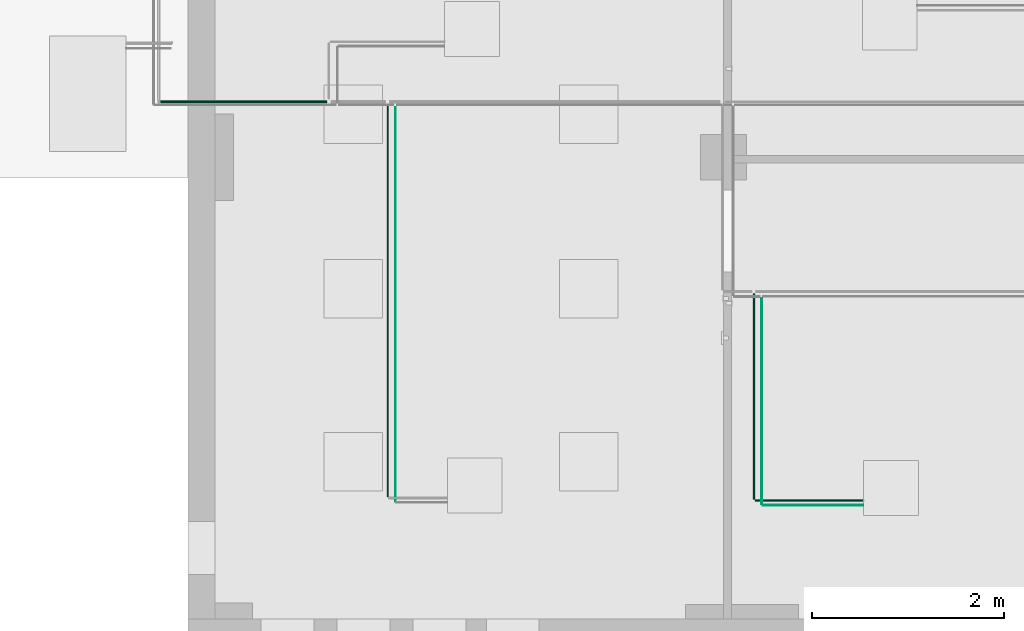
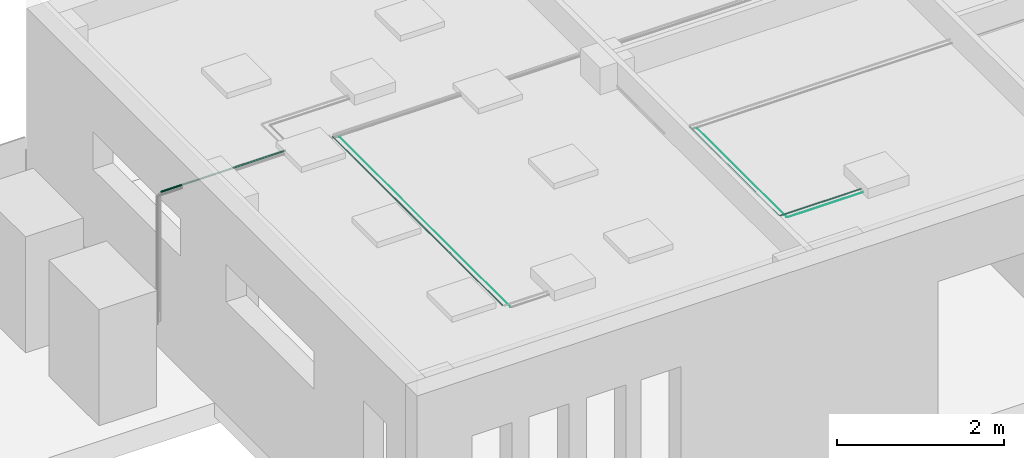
# One storey, part 6 of 22: 7 flow segments.
"""IFC2X3 building model written with IfcOpenShell, lengths in millimetres."""

from ifc_helpers import new_model, entity, si_unit, converted_unit, derived_unit, direction, frame, origin, origin_2d_with_axis, place, context, subcontext, project, spatial, circle, extrude, source, transform, mapped, material, type_object, type_shapes, element, save


model = new_model("IFC2X3")

# Units and contexts
model_context = context("Model", 3, precision=0.01, world=origin(), true_north=direction((6.123031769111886e-17, 1.0)))
body_context = subcontext(model_context, "Body", "Model", "MODEL_VIEW")
ifc_project = project(units=[si_unit("LENGTHUNIT", "METRE", prefix="MILLI"), si_unit("AREAUNIT", "SQUARE_METRE"), si_unit("VOLUMEUNIT", "CUBIC_METRE"), converted_unit("PLANEANGLEUNIT", "DEGREE", entity("IfcRatioMeasure", 0.017453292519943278), si_unit("PLANEANGLEUNIT", "RADIAN"), dimensions=[0, 0, 0, 0, 0, 0, 0]), si_unit("MASSUNIT", "GRAM", prefix="KILO"), derived_unit("MASSDENSITYUNIT", [(si_unit("MASSUNIT", "GRAM", prefix="KILO"), 1), (si_unit("LENGTHUNIT", "METRE"), -3)]), derived_unit("MOMENTOFINERTIAUNIT", [(si_unit("LENGTHUNIT", "METRE"), 4)]), si_unit("TIMEUNIT", "SECOND"), si_unit("FREQUENCYUNIT", "HERTZ"), si_unit("THERMODYNAMICTEMPERATUREUNIT", "DEGREE_CELSIUS"), derived_unit("THERMALTRANSMITTANCEUNIT", [(si_unit("MASSUNIT", "GRAM", prefix="KILO"), 1), (si_unit("THERMODYNAMICTEMPERATUREUNIT", "KELVIN"), -1), (si_unit("TIMEUNIT", "SECOND"), -3)]), derived_unit("VOLUMETRICFLOWRATEUNIT", [(si_unit("LENGTHUNIT", "METRE"), 3), (si_unit("TIMEUNIT", "SECOND"), -1)]), derived_unit("MASSFLOWRATEUNIT", [(si_unit("MASSUNIT", "GRAM", prefix="KILO"), 1), (si_unit("TIMEUNIT", "SECOND"), -1)]), derived_unit("ROTATIONALFREQUENCYUNIT", [(si_unit("TIMEUNIT", "SECOND"), -1)]), si_unit("ELECTRICCURRENTUNIT", "AMPERE"), si_unit("ELECTRICVOLTAGEUNIT", "VOLT"), si_unit("POWERUNIT", "WATT"), si_unit("FORCEUNIT", "NEWTON", prefix="KILO"), si_unit("ILLUMINANCEUNIT", "LUX"), si_unit("LUMINOUSFLUXUNIT", "LUMEN"), si_unit("LUMINOUSINTENSITYUNIT", "CANDELA"), derived_unit("USERDEFINED", [(si_unit("MASSUNIT", "GRAM", prefix="KILO"), -1), (si_unit("LENGTHUNIT", "METRE"), -2), (si_unit("TIMEUNIT", "SECOND"), 3), (si_unit("LUMINOUSFLUXUNIT", "LUMEN"), 1)]), derived_unit("SOUNDPOWERUNIT", [(si_unit("MASSUNIT", "GRAM", prefix="KILO"), 1), (si_unit("LENGTHUNIT", "METRE"), 2), (si_unit("TIMEUNIT", "SECOND"), -3)]), derived_unit("SOUNDPRESSUREUNIT", [(si_unit("MASSUNIT", "GRAM", prefix="KILO"), 1), (si_unit("LENGTHUNIT", "METRE"), -1), (si_unit("TIMEUNIT", "SECOND"), -2)]), derived_unit("LINEARVELOCITYUNIT", [(si_unit("LENGTHUNIT", "METRE"), 1), (si_unit("TIMEUNIT", "SECOND"), -1)]), si_unit("PRESSUREUNIT", "PASCAL"), derived_unit("USERDEFINED", [(si_unit("LENGTHUNIT", "METRE"), -2), (si_unit("MASSUNIT", "GRAM", prefix="KILO"), 1), (si_unit("TIMEUNIT", "SECOND"), -2)]), derived_unit("LINEARFORCEUNIT", [(si_unit("MASSUNIT", "GRAM", prefix="KILO"), 1), (si_unit("LENGTHUNIT", "METRE"), 1), (si_unit("TIMEUNIT", "SECOND"), -2), (si_unit("LENGTHUNIT", "METRE"), -1)]), derived_unit("PLANARFORCEUNIT", [(si_unit("MASSUNIT", "GRAM", prefix="KILO"), 1), (si_unit("LENGTHUNIT", "METRE"), 1), (si_unit("TIMEUNIT", "SECOND"), -2), (si_unit("LENGTHUNIT", "METRE"), -2)])], contexts=[model_context])

# Site, building, storey
site_placement = place(None, origin())
site = spatial("IfcSite", under=ifc_project, at=site_placement, Name="Default", CompositionType="ELEMENT")
building_placement = place(site_placement, origin())
building = spatial("IfcBuilding", under=site, at=building_placement, CompositionType="ELEMENT")
storey_placement = place(building_placement, frame((0.0, 0.0, 3300.0)))
storey = spatial("IfcBuildingStorey", under=building, at=storey_placement, Name="Level 2", CompositionType="ELEMENT", Elevation=3299.99999999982)

# Flow segments
ifc_material = material(Name="<Unnamed>")
pipe_segment_type_1 = type_object("IfcPipeSegmentType", Name="Pipe Types:Standard:Standard : Pipe Types:Standard", PredefinedType="NOTDEFINED", material=ifc_material)
shared_shape_1 = source(origin(), body_context, "Body", "SweptSolid", [
    extrude(circle(Radius=6.35, at=origin_2d_with_axis()), frame((-3525.6666947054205, -2566.9353261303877, 6010.0), z_axis=(1.0, 0.0, 0.0), x_axis=(0.0, 1.0, 0.0)), (0.0, 0.0, 1.0), 1121.74375),
])
type_shapes(pipe_segment_type_1, [shared_shape_1])
flow_segment_1_placement = place(storey_placement, frame((0.0, 0.0, -3300.0)))
element("IfcFlowSegment", 1, at=flow_segment_1_placement, inside=storey, type_object=pipe_segment_type_1, material=ifc_material, Name="Pipe Types:Standard:Standard : Pipe Types:Standard:Standard:Standard : Pipe Types:Standard : Pipe Types:Standard:Standard : Pipe Types:Standard", ObjectType="Pipe Types:Standard:Standard : Pipe Types:Standard:Standard:Standard : Pipe Types:Standard : Pipe Types:Standard:Standard : Pipe Types:Standard", context=body_context, shape_type="MappedRepresentation", body=[
    mapped(shared_shape_1, transform((0.0, 0.0, 0.0), scale=1.0)),
])
pipe_segment_type_2 = type_object("IfcPipeSegmentType", Name="Pipe Types:Standard:Standard : Pipe Types:Standard", PredefinedType="NOTDEFINED", material=ifc_material)
shared_shape_2 = source(origin(), body_context, "Body", "SweptSolid", [
    extrude(circle(Radius=6.35, at=origin_2d_with_axis()), frame((-3539.954194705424, -2552.6478261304, 6010.0), z_axis=(0.0, 1.0, 0.0), x_axis=(-1.0, 0.0, 0.0)), (0.0, 0.0, 1.0), 2138.61920625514),
])
type_shapes(pipe_segment_type_2, [shared_shape_2])
flow_segment_2_placement = place(storey_placement, frame((0.0, 0.0, -3300.0)))
element("IfcFlowSegment", 2, at=flow_segment_2_placement, inside=storey, type_object=pipe_segment_type_2, material=ifc_material, Name="Pipe Types:Standard:Standard : Pipe Types:Standard:Standard:Standard : Pipe Types:Standard : Pipe Types:Standard:Standard : Pipe Types:Standard", ObjectType="Pipe Types:Standard:Standard : Pipe Types:Standard:Standard:Standard : Pipe Types:Standard : Pipe Types:Standard:Standard : Pipe Types:Standard", context=body_context, shape_type="MappedRepresentation", body=[
    mapped(shared_shape_2, transform((0.0, 0.0, 0.0), scale=1.0)),
])
pipe_segment_type_3 = type_object("IfcPipeSegmentType", Name="Pipe Types:Standard:Standard : Pipe Types:Standard", PredefinedType="NOTDEFINED", material=ifc_material)
shared_shape_3 = source(origin(), body_context, "Body", "SweptSolid", [
    extrude(circle(Radius=3.175, at=origin_2d_with_axis()), frame((-3450.4291947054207, -2615.0603261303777, 5990.0), z_axis=(1.0, 0.0, 0.0), x_axis=(0.0, 1.0, 0.0)), (0.0, 0.0, 1.0), 1048.08125),
])
type_shapes(pipe_segment_type_3, [shared_shape_3])
flow_segment_3_placement = place(storey_placement, frame((0.0, 0.0, -3300.0)))
element("IfcFlowSegment", 3, at=flow_segment_3_placement, inside=storey, type_object=pipe_segment_type_3, material=ifc_material, Name="Pipe Types:Standard:Standard : Pipe Types:Standard:Standard:Standard : Pipe Types:Standard : Pipe Types:Standard:Standard : Pipe Types:Standard", ObjectType="Pipe Types:Standard:Standard : Pipe Types:Standard:Standard:Standard : Pipe Types:Standard : Pipe Types:Standard:Standard : Pipe Types:Standard", context=body_context, shape_type="MappedRepresentation", body=[
    mapped(shared_shape_3, transform((0.0, 0.0, 0.0), scale=1.0)),
])
pipe_segment_type_4 = type_object("IfcPipeSegmentType", Name="Pipe Types:Standard:Standard : Pipe Types:Standard", PredefinedType="NOTDEFINED", material=ifc_material)
shared_shape_4 = source(origin(), body_context, "Body", "SweptSolid", [
    extrude(circle(Radius=3.175, at=origin_2d_with_axis()), frame((-3459.954194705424, -2605.53532613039, 5990.0), z_axis=(0.0, 1.0, 0.0), x_axis=(-1.0, 0.0, 0.0)), (0.0, 0.0, 1.0), 2143.43338415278),
])
type_shapes(pipe_segment_type_4, [shared_shape_4])
flow_segment_4_placement = place(storey_placement, frame((0.0, 0.0, -3300.0)))
element("IfcFlowSegment", 4, at=flow_segment_4_placement, inside=storey, type_object=pipe_segment_type_4, material=ifc_material, Name="Pipe Types:Standard:Standard : Pipe Types:Standard:Standard:Standard : Pipe Types:Standard : Pipe Types:Standard:Standard : Pipe Types:Standard", ObjectType="Pipe Types:Standard:Standard : Pipe Types:Standard:Standard:Standard : Pipe Types:Standard : Pipe Types:Standard:Standard : Pipe Types:Standard", context=body_context, shape_type="MappedRepresentation", body=[
    mapped(shared_shape_4, transform((0.0, 0.0, 0.0), scale=1.0)),
])
pipe_segment_type_5 = type_object("IfcPipeSegmentType", Name="Pipe Types:Standard:Standard : Pipe Types:Standard", PredefinedType="NOTDEFINED", material=ifc_material)
shared_shape_5 = source(origin(), body_context, "Body", "SweptSolid", [
    extrude(circle(Radius=6.35, at=origin_2d_with_axis()), frame((-7348.777987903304, -2525.84396363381, 6010.0), z_axis=(0.0, 1.0, 0.0), x_axis=(1.0, 0.0, 0.0)), (0.0, 0.0, 1.0), 4075.03839819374),
])
type_shapes(pipe_segment_type_5, [shared_shape_5])
flow_segment_5_placement = place(storey_placement, frame((0.0, 0.0, -3300.0)))
element("IfcFlowSegment", 5, at=flow_segment_5_placement, inside=storey, type_object=pipe_segment_type_5, material=ifc_material, Name="Pipe Types:Standard:Standard : Pipe Types:Standard:Standard:Standard : Pipe Types:Standard : Pipe Types:Standard:Standard : Pipe Types:Standard", ObjectType="Pipe Types:Standard:Standard : Pipe Types:Standard:Standard:Standard : Pipe Types:Standard : Pipe Types:Standard:Standard : Pipe Types:Standard", context=body_context, shape_type="MappedRepresentation", body=[
    mapped(shared_shape_5, transform((0.0, 0.0, 0.0), scale=1.0)),
])
pipe_segment_type_6 = type_object("IfcPipeSegmentType", Name="Pipe Types:Standard:Standard : Pipe Types:Standard", PredefinedType="NOTDEFINED", material=ifc_material)
shared_shape_6 = source(origin(), body_context, "Body", "SweptSolid", [
    extrude(circle(Radius=3.175, at=origin_2d_with_axis()), frame((-7268.777987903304, -2578.73146363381, 5990.0), z_axis=(0.0, 1.0, 0.0), x_axis=(1.0, 0.0, 0.0)), (0.0, 0.0, 1.0), 4101.9786726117),
])
type_shapes(pipe_segment_type_6, [shared_shape_6])
flow_segment_6_placement = place(storey_placement, frame((0.0, 0.0, -3300.0)))
element("IfcFlowSegment", 6, at=flow_segment_6_placement, inside=storey, type_object=pipe_segment_type_6, material=ifc_material, Name="Pipe Types:Standard:Standard : Pipe Types:Standard:Standard:Standard : Pipe Types:Standard : Pipe Types:Standard:Standard : Pipe Types:Standard", ObjectType="Pipe Types:Standard:Standard : Pipe Types:Standard:Standard:Standard : Pipe Types:Standard : Pipe Types:Standard:Standard : Pipe Types:Standard", context=body_context, shape_type="MappedRepresentation", body=[
    mapped(shared_shape_6, transform((0.0, 0.0, 0.0), scale=1.0)),
])
pipe_segment_type_7 = type_object("IfcPipeSegmentType", Name="Pipe Types:Standard:Standard : Pipe Types:Standard", PredefinedType="NOTDEFINED", material=ifc_material)
shared_shape_7 = source(origin(), body_context, "Body", "SweptSolid", [
    extrude(circle(Radius=9.525, at=origin_2d_with_axis()), frame((-9709.14095917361, 1578.563184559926, 6010.0), z_axis=(1.0, 0.0, 0.0), x_axis=(0.0, 1.0, 0.0)), (0.0, 0.0, 1.0), 1725.7778587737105),
])
type_shapes(pipe_segment_type_7, [shared_shape_7])
flow_segment_7_placement = place(storey_placement, frame((0.0, 0.0, -3300.0)))
element("IfcFlowSegment", 7, at=flow_segment_7_placement, inside=storey, type_object=pipe_segment_type_7, material=ifc_material, Name="Pipe Types:Standard:Standard : Pipe Types:Standard:Standard:Standard : Pipe Types:Standard : Pipe Types:Standard:Standard : Pipe Types:Standard", ObjectType="Pipe Types:Standard:Standard : Pipe Types:Standard:Standard:Standard : Pipe Types:Standard : Pipe Types:Standard:Standard : Pipe Types:Standard", context=body_context, shape_type="MappedRepresentation", body=[
    mapped(shared_shape_7, transform((0.0, 0.0, 0.0), scale=1.0)),
])

save(model, "model.ifc")
